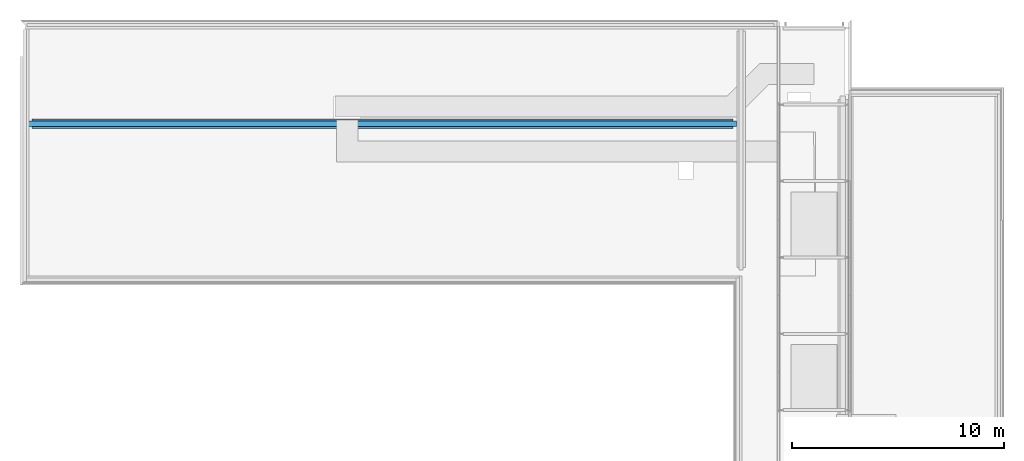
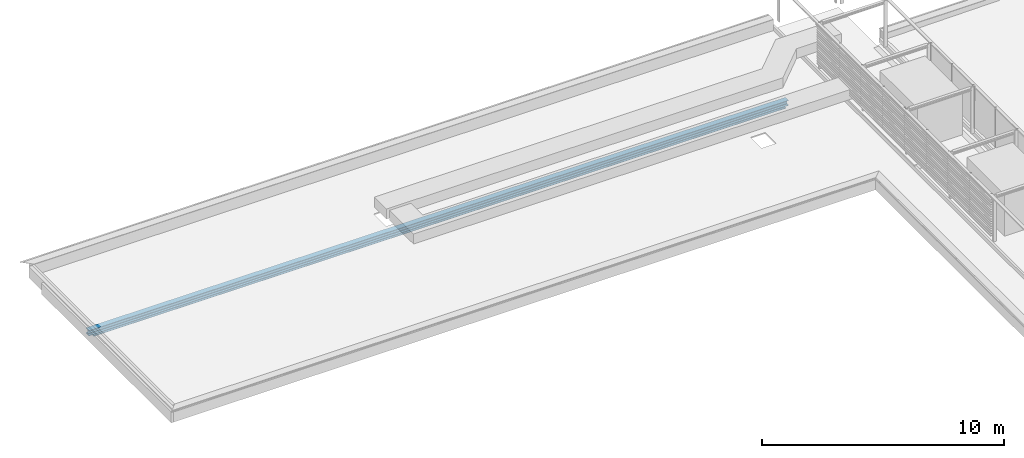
# One storey, part 8 of 32: 1 beam.
"""IFC2X3 building model written with IfcOpenShell, lengths in millimetres."""

from ifc_helpers import new_model, entity, si_unit, converted_unit, derived_unit, direction, frame, frame_2d, origin, origin_2d_with_axis, place, context, subcontext, project, spatial, polyline, circle_curve, parameter, trimmed, segment, composite_curve, rectangle, outline, extrude, source, transform, mapped, material, material_list, type_object, type_shapes, element, save


model = new_model("IFC2X3")

# Units and contexts
model_context = context("Model", 3, precision=0.01, world=origin(), true_north=direction((6.123031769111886e-17, 1.0)))
body_context = subcontext(model_context, "Body", "Model", "MODEL_VIEW")
ifc_project = project(units=[si_unit("LENGTHUNIT", "METRE", prefix="MILLI"), si_unit("AREAUNIT", "SQUARE_METRE"), si_unit("VOLUMEUNIT", "CUBIC_METRE"), converted_unit("PLANEANGLEUNIT", "DEGREE", entity("IfcRatioMeasure", 0.017453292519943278), si_unit("PLANEANGLEUNIT", "RADIAN"), dimensions=[0, 0, 0, 0, 0, 0, 0]), si_unit("MASSUNIT", "GRAM", prefix="KILO"), derived_unit("MASSDENSITYUNIT", [(si_unit("MASSUNIT", "GRAM", prefix="KILO"), 1), (si_unit("LENGTHUNIT", "METRE"), -3)]), derived_unit("IONCONCENTRATIONUNIT", [(si_unit("MASSUNIT", "GRAM", prefix="KILO"), 1), (si_unit("LENGTHUNIT", "METRE"), -3)]), derived_unit("MOMENTOFINERTIAUNIT", [(si_unit("LENGTHUNIT", "METRE"), 4)]), si_unit("TIMEUNIT", "SECOND"), si_unit("FREQUENCYUNIT", "HERTZ"), si_unit("THERMODYNAMICTEMPERATUREUNIT", "DEGREE_CELSIUS"), derived_unit("THERMALTRANSMITTANCEUNIT", [(si_unit("MASSUNIT", "GRAM", prefix="KILO"), 1), (si_unit("THERMODYNAMICTEMPERATUREUNIT", "KELVIN"), -1), (si_unit("TIMEUNIT", "SECOND"), -3)]), derived_unit("THERMALCONDUCTANCEUNIT", [(si_unit("MASSUNIT", "GRAM", prefix="KILO"), 1), (si_unit("THERMODYNAMICTEMPERATUREUNIT", "KELVIN"), -1), (si_unit("TIMEUNIT", "SECOND"), -3), (si_unit("LENGTHUNIT", "METRE"), 1)]), derived_unit("VOLUMETRICFLOWRATEUNIT", [(si_unit("LENGTHUNIT", "METRE"), 3), (si_unit("TIMEUNIT", "SECOND"), -1)]), derived_unit("MASSFLOWRATEUNIT", [(si_unit("MASSUNIT", "GRAM", prefix="KILO"), 1), (si_unit("TIMEUNIT", "SECOND"), -1)]), derived_unit("ROTATIONALFREQUENCYUNIT", [(si_unit("TIMEUNIT", "SECOND"), -1)]), si_unit("ELECTRICCURRENTUNIT", "AMPERE"), si_unit("ELECTRICVOLTAGEUNIT", "VOLT"), si_unit("POWERUNIT", "WATT"), si_unit("FORCEUNIT", "NEWTON", prefix="KILO"), si_unit("ILLUMINANCEUNIT", "LUX"), si_unit("LUMINOUSFLUXUNIT", "LUMEN"), si_unit("LUMINOUSINTENSITYUNIT", "CANDELA"), derived_unit("USERDEFINED", [(si_unit("MASSUNIT", "GRAM", prefix="KILO"), -1), (si_unit("LENGTHUNIT", "METRE"), -2), (si_unit("TIMEUNIT", "SECOND"), 3), (si_unit("LUMINOUSFLUXUNIT", "LUMEN"), 1)]), derived_unit("USERDEFINED", [(si_unit("MASSUNIT", "GRAM", prefix="KILO"), 1), (si_unit("TIMEUNIT", "SECOND"), -3), (si_unit("LENGTHUNIT", "METRE"), 3), (si_unit("ELECTRICCURRENTUNIT", "AMPERE"), -2)]), derived_unit("SOUNDPOWERUNIT", [(si_unit("MASSUNIT", "GRAM", prefix="KILO"), 1), (si_unit("TIMEUNIT", "SECOND"), -3), (si_unit("LENGTHUNIT", "METRE"), 2)]), derived_unit("SOUNDPRESSUREUNIT", [(si_unit("MASSUNIT", "GRAM", prefix="KILO"), 1), (si_unit("LENGTHUNIT", "METRE"), -1), (si_unit("TIMEUNIT", "SECOND"), -2)]), derived_unit("LINEARVELOCITYUNIT", [(si_unit("LENGTHUNIT", "METRE"), 1), (si_unit("TIMEUNIT", "SECOND"), -1)]), si_unit("PRESSUREUNIT", "PASCAL"), derived_unit("USERDEFINED", [(si_unit("MASSUNIT", "GRAM", prefix="KILO"), 1), (si_unit("LENGTHUNIT", "METRE"), -2), (si_unit("TIMEUNIT", "SECOND"), -2)]), derived_unit("LINEARFORCEUNIT", [(si_unit("MASSUNIT", "GRAM", prefix="KILO"), 1), (si_unit("TIMEUNIT", "SECOND"), -2)]), derived_unit("PLANARFORCEUNIT", [(si_unit("MASSUNIT", "GRAM", prefix="KILO"), 1), (si_unit("LENGTHUNIT", "METRE"), -1), (si_unit("TIMEUNIT", "SECOND"), -2)]), derived_unit("SPECIFICHEATCAPACITYUNIT", [(si_unit("THERMODYNAMICTEMPERATUREUNIT", "KELVIN"), -1), (si_unit("LENGTHUNIT", "METRE"), 2), (si_unit("TIMEUNIT", "SECOND"), -2)]), derived_unit("HEATINGVALUEUNIT", [(si_unit("LENGTHUNIT", "METRE"), 2), (si_unit("TIMEUNIT", "SECOND"), -2)]), derived_unit("VAPORPERMEABILITYUNIT", [(si_unit("LENGTHUNIT", "METRE"), -1), (si_unit("TIMEUNIT", "SECOND"), 1)]), derived_unit("DYNAMICVISCOSITYUNIT", [(si_unit("MASSUNIT", "GRAM", prefix="KILO"), 1), (si_unit("TIMEUNIT", "SECOND"), -1), (si_unit("LENGTHUNIT", "METRE"), -1)]), derived_unit("THERMALEXPANSIONCOEFFICIENTUNIT", [(si_unit("THERMODYNAMICTEMPERATUREUNIT", "KELVIN"), -1)]), derived_unit("MODULUSOFELASTICITYUNIT", [(si_unit("MASSUNIT", "GRAM", prefix="KILO"), 1), (si_unit("LENGTHUNIT", "METRE"), -1), (si_unit("TIMEUNIT", "SECOND"), -2)]), derived_unit("ISOTHERMALMOISTURECAPACITYUNIT", [(si_unit("LENGTHUNIT", "METRE"), 3), (si_unit("MASSUNIT", "GRAM", prefix="KILO"), -1)]), derived_unit("MOISTUREDIFFUSIVITYUNIT", [(si_unit("TIMEUNIT", "SECOND"), -1), (si_unit("LENGTHUNIT", "METRE"), 2)])], contexts=[model_context])

# Site, building, storey
site_placement = place(None, frame((0.0, 300.0, 0.0)))
site = spatial("IfcSite", under=ifc_project, at=site_placement, Name="<Kadastrale nummers>", CompositionType="ELEMENT")
building_placement = place(site_placement, origin())
building = spatial("IfcBuilding", under=site, at=building_placement, CompositionType="ELEMENT")
storey_placement = place(building_placement, frame((0.0, 0.0, 7150.000035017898)))
storey = spatial("IfcBuildingStorey", under=building, at=storey_placement, Name="02 tweede verdieping", CompositionType="ELEMENT", Elevation=7150.000035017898)

# Beam
ifc_material_1 = material(Name="ISR_Staal")
ifc_material_2 = material(Name="<Unnamed>")
ifc_material_list = material_list([ifc_material_2, ifc_material_1])
beam_type = type_object("IfcBeamType", Name="NLRS_28_SF_LIB_balk SFB_gen_ASN:balk HEB260 460x20", PredefinedType="BEAM", material=ifc_material_list)
shared_shape = source(origin(), body_context, "Body", "SweptSolid", [
    extrude(rectangle(XDim=20.000000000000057, YDim=459.99999999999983, at=origin_2d_with_axis()), frame((-16625.026785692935, 0.0, -84.0), z_axis=(1.0, 0.0, 0.0), x_axis=(0.0, 0.0, -1.0)), (0.0, 0.0, 1.0), 33037.35389026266),
    extrude(outline(composite_curve([segment(polyline([(112.49999999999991, -130.0), (130.0, -130.0)]), True, "CONTINUOUS"), segment(polyline([(130.0, -130.0), (130.0, 130.0)]), True, "CONTINUOUS"), segment(polyline([(130.0, 130.0), (112.49999999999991, 130.0)]), True, "CONTINUOUS"), segment(polyline([(112.49999999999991, 130.0), (112.49999999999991, 29.0)]), True, "CONTINUOUS"), segment(trimmed(circle_curve(frame_2d((88.49999999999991, 29.0), x_axis=(1.0, 0.0)), 23.99999999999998), [parameter(269.99999999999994)], [parameter(0.0)], True, "PARAMETER"), False, "CONTINUOUS"), segment(polyline([(88.49999999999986, 5.0), (-88.49999999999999, 5.0)]), True, "CONTINUOUS"), segment(trimmed(circle_curve(frame_2d((-88.49999999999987, 29.0), x_axis=(0.0, -1.0)), 23.99999999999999), [parameter(269.99999999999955)], [parameter(0.0)], True, "PARAMETER"), False, "CONTINUOUS"), segment(polyline([(-112.49999999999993, 29.0), (-112.49999999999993, 130.0)]), True, "CONTINUOUS"), segment(polyline([(-112.49999999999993, 130.0), (-130.0, 130.0)]), True, "CONTINUOUS"), segment(polyline([(-130.0, 130.0), (-130.0, -130.0)]), True, "CONTINUOUS"), segment(polyline([(-130.0, -130.0), (-112.49999999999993, -130.0)]), True, "CONTINUOUS"), segment(polyline([(-112.49999999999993, -130.0), (-112.49999999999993, -29.0)]), True, "CONTINUOUS"), segment(trimmed(circle_curve(frame_2d((-88.49999999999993, -29.0), x_axis=(-1.0, 0.0)), 23.99999999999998), [parameter(269.99999999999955)], [parameter(0.0)], True, "PARAMETER"), False, "CONTINUOUS"), segment(polyline([(-88.4999999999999, -5.0), (88.49999999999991, -5.0)]), True, "CONTINUOUS"), segment(trimmed(circle_curve(frame_2d((88.49999999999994, -29.0), x_axis=(0.0, 1.0)), 23.999999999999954), [parameter(269.9999999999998)], [parameter(0.0)], True, "PARAMETER"), False, "CONTINUOUS"), segment(polyline([(112.49999999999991, -29.0), (112.49999999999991, -130.0)]), True, "CONTINUOUS")], self_intersect=False)), frame((-16800.02678569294, 0.0, 56.0), z_axis=(1.0, 0.0, 0.0), x_axis=(0.0, 0.0, -1.0)), (0.0, 0.0, 1.0), 33387.35389026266),
])
type_shapes(beam_type, [shared_shape])
beam_placement = place(storey_placement, frame((19799.66785767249, 45300.0, -215.99970344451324), z_axis=(0.0017857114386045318, 0.0, 0.9999984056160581), x_axis=(0.999998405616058, 0.0, -0.0017857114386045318)))
element("IfcBeam", 1, at=beam_placement, inside=storey, type_object=beam_type, material=ifc_material_1, Name="NLRS_28_SF_LIB_balk SFB_gen_ASN:balk HEB260 460x20", ObjectType="NLRS_28_SF_LIB_balk SFB_gen_ASN:balk HEB260 460x20", context=body_context, shape_type="MappedRepresentation", body=[
    mapped(shared_shape, transform((0.0, 0.0, 0.0), scale=1.0)),
])

save(model, "model.ifc")
